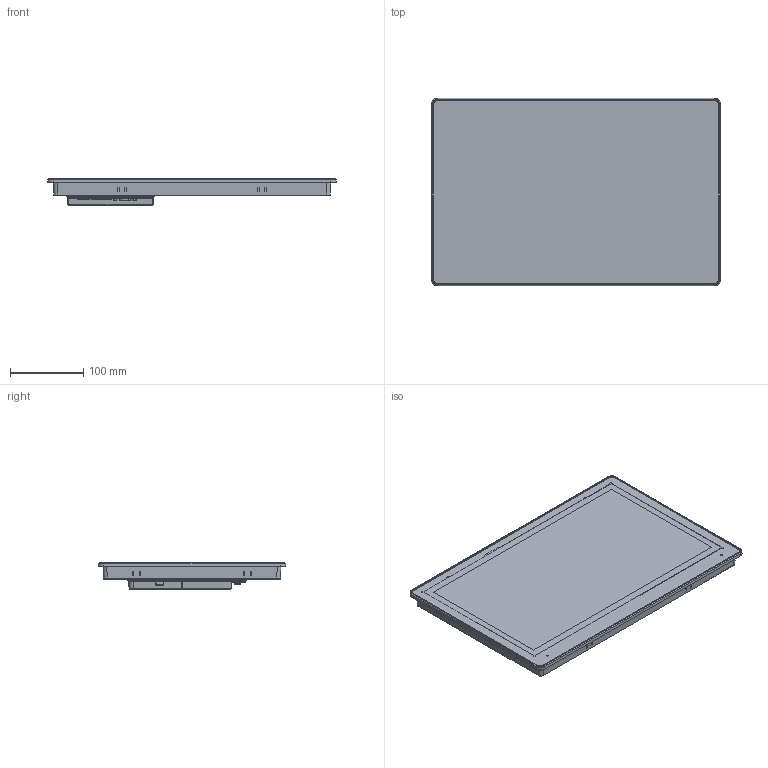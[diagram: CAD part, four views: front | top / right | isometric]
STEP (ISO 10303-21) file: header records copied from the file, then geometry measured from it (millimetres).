
FILE_DESCRIPTION(/* description */ (''),/* implementation_level */ '2;1');
FILE_NAME(/* name */ 'VI20-156S-FE',/* time_stamp */ '2022-11-21T09:35:01+08:00',/* author */ (''),/* organization */ (''),/* preprocessor_version */ 'ST-DEVELOPER v16.5',/* originating_system */ '',/* authorisation */ '');
FILE_SCHEMA (('AUTOMOTIVE_DESIGN'));
Length unit declared in the file: millimetre
Products named in the file (2): Document; Block 01
Assembly tree (1 placements, depth 2):
  Document
    Block 01
Bounding box: 394 x 256 x 35.6 mm (x, y, z)
Volume: 43613.5 mm3; surface area: 636491.6 mm2
Topology: 28 solids, 29 shells, 1263 faces, 3286 edges, 2117 vertices
Faces by surface type: plane 872, bspline 391
Entity records: 42793 total; most frequent: CARTESIAN_POINT 21494, ORIENTED_EDGE 6504, EDGE_CURVE 3258, B_SPLINE_CURVE_WITH_KNOTS 2648, VERTEX_POINT 2097, EDGE_LOOP 1357, ADVANCED_FACE 1263, FACE_OUTER_BOUND 1263
